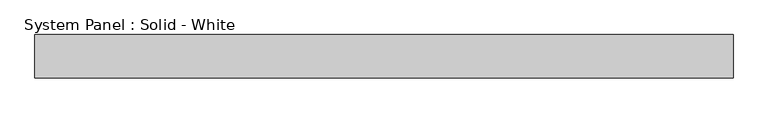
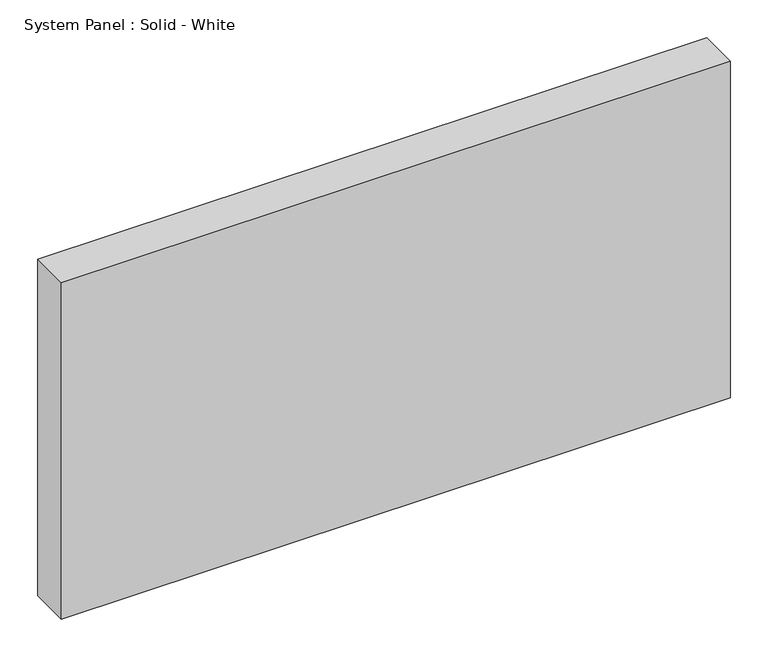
"""IFC4 building model written with IfcOpenShell, lengths in millimetres: plate geometry, System Panel : Solid - White."""

import ifcopenshell
import ifcopenshell.guid

model = None  # the IFC model being written
_history = None  # IfcOwnerHistory: only IFC2X3 demands one
_inside = {}  # id of a spatial element -> (the spatial element, [elements in it])
_under = {}  # id of a project, library or spatial element -> (it, [spatial elements below it])
_declared = {}  # id of a project -> (the project, [libraries it declares])
_typed = {}  # id of a type object -> (the type object, [elements of that type])
_made_of = {}  # id of a material, layer set ... -> (it, [elements and type objects made of it])


def new_model(schema):
    """Start an empty IFC model of exactly this schema.

    Asked for "IFC4X3", IfcOpenShell would pick the latest addendum, in which some entities
    have other attributes; the version numbers below select the first issue.
    IFC2X3 requires an IfcOwnerHistory on every rooted entity: one is made here for all.
    """
    global model, _history
    if schema == "IFC4X3":
        model = ifcopenshell.file(schema_version=(4, 3, 0, 0))
    else:
        model = ifcopenshell.file(schema=schema)
    _inside.clear()
    _under.clear()
    _declared.clear()
    _typed.clear()
    _made_of.clear()
    _history = None
    if model.schema == "IFC2X3":
        org = make("IfcOrganization", Name="unknown")
        user = make(
            "IfcPersonAndOrganization",
            ThePerson=make("IfcPerson", FamilyName="unknown"),
            TheOrganization=org,
        )
        app = make(
            "IfcApplication",
            ApplicationDeveloper=org,
            Version="unknown",
            ApplicationFullName="unknown",
            ApplicationIdentifier="unknown",
        )
        _history = make(
            "IfcOwnerHistory",
            OwningUser=user,
            OwningApplication=app,
            ChangeAction="ADDED",
            CreationDate=0,
        )
    return model


def make(cls, **values):
    """One entity of the class cls with the attributes given. An attribute that is None is left unset."""
    return model.create_entity(
        cls, **{name: value for name, value in values.items() if value is not None}
    )


def rooted(cls, **values):
    """An entity with a GlobalId (a new one), such as an element, a storey or a relation."""
    return make(cls, GlobalId=ifcopenshell.guid.new(), OwnerHistory=_history, **values)


def si_unit(unit_type, name, prefix=None):
    """IfcSIUnit, for example si_unit("LENGTHUNIT", "METRE", prefix="MILLI")."""
    return make("IfcSIUnit", UnitType=unit_type, Prefix=prefix, Name=name)


def assignment(units):
    """IfcUnitAssignment: the units of a project."""
    return None if units is None else make("IfcUnitAssignment", Units=units)


def point(xyz):
    """IfcCartesianPoint."""
    return None if xyz is None else make("IfcCartesianPoint", Coordinates=xyz)


def direction(xyz):
    """IfcDirection."""
    return None if xyz is None else make("IfcDirection", DirectionRatios=xyz)


def frame(location, z_axis=None, x_axis=None):
    """IfcAxis2Placement3D, a coordinate frame: its origin and axes. An axis left out is left unset."""
    return make(
        "IfcAxis2Placement3D",
        Location=point(location),
        Axis=direction(z_axis),
        RefDirection=direction(x_axis),
    )


def origin():
    """The frame at (0, 0, 0) with its axes left unset."""
    return frame((0.0, 0.0, 0.0))


def origin_with_axes():
    """The frame at (0, 0, 0) with the z axis (0, 0, 1) and the x axis (1, 0, 0) written out."""
    return frame((0.0, 0.0, 0.0), z_axis=(0.0, 0.0, 1.0), x_axis=(1.0, 0.0, 0.0))


def place(relative_to, where):
    """IfcLocalPlacement: puts the frame where relative to a parent placement (None: the world)."""
    return make(
        "IfcLocalPlacement", PlacementRelTo=relative_to, RelativePlacement=where
    )


def context(
    kind, dimensions, precision=None, world=None, true_north=None, identifier=None
):
    """IfcGeometricRepresentationContext, for example the 3D "Model" context."""
    return make(
        "IfcGeometricRepresentationContext",
        ContextIdentifier=identifier,
        ContextType=kind,
        CoordinateSpaceDimension=dimensions,
        Precision=precision,
        WorldCoordinateSystem=world,
        TrueNorth=true_north,
    )


def project(units=None, contexts=None):
    """IfcProject with its units and contexts."""
    return rooted(
        "IfcProject",
        Name="project",
        RepresentationContexts=contexts,
        UnitsInContext=assignment(units),
    )


def spatial(cls, under=None, at=None, **own):
    """A site, building, storey or space (cls), placed at a placement, below another one or the project."""
    s = rooted(cls, ObjectPlacement=at, **own)
    if under is not None:
        _under.setdefault(under.id(), (under, []))[1].append(s)
    return s


def polyline(points):
    """IfcPolyline through the points."""
    return make("IfcPolyline", Points=[point(p) for p in points])


def outline(outer, holes=None, kind="AREA"):
    """IfcArbitraryClosedProfileDef: a profile drawn as a closed curve; with holes, ...WithVoids."""
    if holes is None:
        return make("IfcArbitraryClosedProfileDef", ProfileType=kind, OuterCurve=outer)
    return make(
        "IfcArbitraryProfileDefWithVoids",
        ProfileType=kind,
        OuterCurve=outer,
        InnerCurves=holes,
    )


def extrude(swept, where, along, depth):
    """IfcExtrudedAreaSolid: the profile swept, set in the frame where, extruded along a direction by depth."""
    return make(
        "IfcExtrudedAreaSolid",
        SweptArea=swept,
        Position=where,
        ExtrudedDirection=direction(along),
        Depth=depth,
    )


def shape(context_of_items, identifier, shape_type, items):
    """IfcShapeRepresentation: the items that make up one representation, for example the "Body"."""
    return make(
        "IfcShapeRepresentation",
        ContextOfItems=context_of_items,
        RepresentationIdentifier=identifier,
        RepresentationType=shape_type,
        Items=items,
    )


def source(mapping_origin, context_of_items, identifier, shape_type, items):
    """IfcRepresentationMap: a shape defined once, which mapped items show again and again."""
    return make(
        "IfcRepresentationMap",
        MappingOrigin=mapping_origin,
        MappedRepresentation=shape(context_of_items, identifier, shape_type, items),
    )


def transform(
    local_origin,
    x_axis=None,
    y_axis=None,
    z_axis=None,
    scale=None,
    scale2=None,
    scale3=None,
    uniform=True,
):
    """IfcCartesianTransformationOperator3D, or its non-uniform kind. x_axis, y_axis, z_axis: its Axis1, 2, 3."""
    if uniform:
        return make(
            "IfcCartesianTransformationOperator3D",
            Axis1=direction(x_axis),
            Axis2=direction(y_axis),
            LocalOrigin=point(local_origin),
            Scale=scale,
            Axis3=direction(z_axis),
        )
    return make(
        "IfcCartesianTransformationOperator3DnonUniform",
        Axis1=direction(x_axis),
        Axis2=direction(y_axis),
        LocalOrigin=point(local_origin),
        Scale=scale,
        Axis3=direction(z_axis),
        Scale2=scale2,
        Scale3=scale3,
    )


def mapped(mapping_source, mapping_target):
    """IfcMappedItem: shows the shape of a source again, moved by a transform."""
    return make(
        "IfcMappedItem", MappingSource=mapping_source, MappingTarget=mapping_target
    )


def made_of(thing, what):
    """Note that an element or type object is made of a material, layer set ...; save() writes the relation."""
    if what is not None:
        _made_of.setdefault(what.id(), (what, []))[1].append(thing)
    return thing


def element(
    cls,
    number,
    at=None,
    inside=None,
    cuts=None,
    type_object=None,
    material=None,
    context=None,
    identifier="Body",
    shape_type=None,
    held_by="IfcProductDefinitionShape",
    body=None,
    shapes=None,
    **own,
):
    """One element of the class cls, such as IfcWall. Its Tag is "e" and its number.

    at: its placement. inside: the storey or other place that contains it. cuts: it is an
    opening in that element (IfcRelVoidsElement). A single representation is given by context,
    identifier, shape_type and body (its items); several are given by shapes. held_by: the class
    of the entity that holds the representations. save() writes the other relations.
    """
    e = rooted(cls, Tag="e%d" % number, ObjectPlacement=at, **own)
    if body is not None:
        shapes = [shape(context, identifier, shape_type, body)]
    if shapes is not None:
        e.Representation = make(held_by, Representations=shapes)
    if inside is not None:
        _inside.setdefault(inside.id(), (inside, []))[1].append(e)
    if cuts is not None:
        rooted(
            "IfcRelVoidsElement", RelatingBuildingElement=cuts, RelatedOpeningElement=e
        )
    if type_object is not None:
        _typed.setdefault(type_object.id(), (type_object, []))[1].append(e)
    return made_of(e, material)


def aggregate(whole, parts):
    """IfcRelAggregates: a whole, such as a stair, and the parts it consists of."""
    return rooted("IfcRelAggregates", RelatingObject=whole, RelatedObjects=parts)


def save(model, path):
    """Write the relations noted so far, then the file.

    IfcRelAggregates (storeys below a building ...), IfcRelContainedInSpatialStructure (elements
    in a storey), IfcRelDefinesByType, IfcRelAssociatesMaterial and IfcRelDeclares: one each for
    every whole, place, type object, material and project.
    """
    for whole, parts in _under.values():
        aggregate(whole, parts)
    for where, things in _inside.values():
        rooted(
            "IfcRelContainedInSpatialStructure",
            RelatedElements=things,
            RelatingStructure=where,
        )
    for kind, things in _typed.values():
        rooted("IfcRelDefinesByType", RelatedObjects=things, RelatingType=kind)
    for what, things in _made_of.values():
        rooted("IfcRelAssociatesMaterial", RelatedObjects=things, RelatingMaterial=what)
    for by, libraries in _declared.values():
        rooted("IfcRelDeclares", RelatingContext=by, RelatedDefinitions=libraries)
    model.write(path)


def system_panel_solid_white_42016752(model_context):
    return source(origin(), model_context, "Body", "SweptSolid", [
        extrude(outline(polyline([(513.5427261, -19.05), (-513.5427261, -19.05), (-513.5427261, 44.45), (513.5427261, 44.45), (513.5427261, -19.05)])), origin_with_axes(), (0.0, 0.0, 1.0), 546.1),
    ])


if __name__ == "__main__":
    model = new_model("IFC4")
    model_context = context("Model", 3, world=origin())
    ifc_project = project(units=[si_unit("LENGTHUNIT", "METRE", prefix="MILLI")], contexts=[model_context])
    site = spatial("IfcSite", under=ifc_project)
    building = spatial("IfcBuilding", under=site)
    placement = place(None, origin())
    system_panel_solid_white_shape = system_panel_solid_white_42016752(model_context)
    element("IfcPlate", 1, ObjectType="System Panel : Solid - White", at=placement, inside=building, context=model_context, shape_type="MappedRepresentation", body=[
        mapped(system_panel_solid_white_shape, transform((0.0, 0.0, 0.0), x_axis=(1.0, 0.0, 0.0), y_axis=(0.0, 1.0, 0.0), z_axis=(0.0, 0.0, 1.0))),
    ])
    save(model, "model.ifc")
